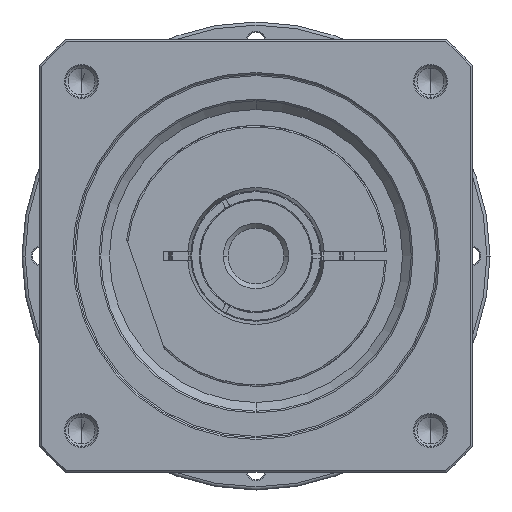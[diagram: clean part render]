
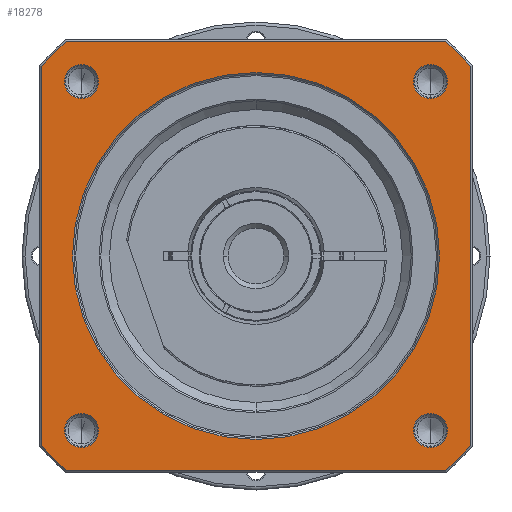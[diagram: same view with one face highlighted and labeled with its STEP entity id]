
A CAD part, left-side view. The second image highlights one B-rep face of the part: STEP entity #18278.
In plain terms, the highlighted planar face has unit normal (-1, 0, 0) as drawn and (0, 0, 1) by its records, which use the part's own axes.
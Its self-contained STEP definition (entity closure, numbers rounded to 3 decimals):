
#17009=DIRECTION('',(1.,0.,0.));
#17010=VECTOR('',#17009,119.059);
#17011=CARTESIAN_POINT('',(-59.529,-67.5,41.));
#17012=LINE('',#17011,#17010);
#17022=CARTESIAN_POINT('',(0.,0.,
41.));
#17023=DIRECTION('',(0.,0.,-1.));
#17024=DIRECTION('',(0.,-1.,0.));
#17025=AXIS2_PLACEMENT_3D('',#17022,#17023,#17024);
#17027=CARTESIAN_POINT('',(0.,0.,
41.));
#17028=DIRECTION('',(0.,0.,-1.));
#17029=DIRECTION('',(0.,1.,0.));
#17030=AXIS2_PLACEMENT_3D('',#17027,#17028,#17029);
#17032=CARTESIAN_POINT('',(0.,0.,41.));
#17033=DIRECTION('',(0.,0.,1.));
#17034=DIRECTION('',(-0.75,-0.661,0.));
#17035=AXIS2_PLACEMENT_3D('',#17032,#17033,#17034);
#17047=DIRECTION('',(0.,-1.,0.));
#17048=VECTOR('',#17047,119.059);
#17049=CARTESIAN_POINT('',(-67.5,59.529,41.));
#17050=LINE('',#17049,#17048);
#17060=CARTESIAN_POINT('',(0.,0.,41.));
#17061=DIRECTION('',(0.,0.,1.));
#17062=DIRECTION('',(-0.661,0.75,0.));
#17063=AXIS2_PLACEMENT_3D('',#17060,#17061,#17062);
#17088=DIRECTION('',(-1.,0.,0.));
#17089=VECTOR('',#17088,119.059);
#17090=CARTESIAN_POINT('',(59.529,67.5,41.));
#17091=LINE('',#17090,#17089);
#17096=CARTESIAN_POINT('',(0.,0.,41.));
#17097=DIRECTION('',(0.,0.,1.));
#17098=DIRECTION('',(0.75,0.661,0.));
#17099=AXIS2_PLACEMENT_3D('',#17096,#17097,#17098);
#17111=DIRECTION('',(0.,1.,0.));
#17112=VECTOR('',#17111,119.059);
#17113=CARTESIAN_POINT('',(67.5,-59.529,41.));
#17114=LINE('',#17113,#17112);
#17216=CARTESIAN_POINT('',(0.,0.,41.));
#17217=DIRECTION('',(0.,0.,1.));
#17218=DIRECTION('',(0.661,-0.75,0.));
#17219=AXIS2_PLACEMENT_3D('',#17216,#17217,#17218);
#17495=CARTESIAN_POINT('',(-54.801,54.801,41.));
#17496=DIRECTION('',(0.,0.,1.));
#17497=DIRECTION('',(-1.,0.,0.));
#17498=AXIS2_PLACEMENT_3D('',#17495,#17496,#17497);
#17513=CARTESIAN_POINT('',(-54.801,54.801,41.));
#17514=DIRECTION('',(0.,0.,1.));
#17515=DIRECTION('',(1.,0.,0.));
#17516=AXIS2_PLACEMENT_3D('',#17513,#17514,#17515);
#17549=CARTESIAN_POINT('',(54.801,54.801,41.));
#17550=DIRECTION('',(0.,0.,1.));
#17551=DIRECTION('',(-1.,0.,0.));
#17552=AXIS2_PLACEMENT_3D('',#17549,#17550,#17551);
#17567=CARTESIAN_POINT('',(54.801,54.801,41.));
#17568=DIRECTION('',(0.,0.,1.));
#17569=DIRECTION('',(1.,0.,0.));
#17570=AXIS2_PLACEMENT_3D('',#17567,#17568,#17569);
#17603=CARTESIAN_POINT('',(54.801,-54.801,41.));
#17604=DIRECTION('',(0.,0.,1.));
#17605=DIRECTION('',(-1.,0.,0.));
#17606=AXIS2_PLACEMENT_3D('',#17603,#17604,#17605);
#17621=CARTESIAN_POINT('',(54.801,-54.801,41.));
#17622=DIRECTION('',(0.,0.,1.));
#17623=DIRECTION('',(1.,0.,0.));
#17624=AXIS2_PLACEMENT_3D('',#17621,#17622,#17623);
#17657=CARTESIAN_POINT('',(-54.801,-54.801,41.));
#17658=DIRECTION('',(0.,0.,1.));
#17659=DIRECTION('',(-1.,0.,0.));
#17660=AXIS2_PLACEMENT_3D('',#17657,#17658,#17659);
#17675=CARTESIAN_POINT('',(-54.801,-54.801,41.));
#17676=DIRECTION('',(0.,0.,1.));
#17677=DIRECTION('',(1.,0.,0.));
#17678=AXIS2_PLACEMENT_3D('',#17675,#17676,#17677);
#17719=CARTESIAN_POINT('',(67.5,-59.529,41.));
#17720=CARTESIAN_POINT('',(67.5,59.529,41.));
#17721=VERTEX_POINT('',#17719);
#17722=VERTEX_POINT('',#17720);
#17727=CARTESIAN_POINT('',(59.529,-67.5,41.));
#17728=VERTEX_POINT('',#17727);
#17731=CARTESIAN_POINT('',(-59.529,-67.5,41.));
#17732=VERTEX_POINT('',#17731);
#17735=CARTESIAN_POINT('',(-67.5,-59.529,41.));
#17736=VERTEX_POINT('',#17735);
#17739=CARTESIAN_POINT('',(-67.5,59.529,41.));
#17740=VERTEX_POINT('',#17739);
#17743=CARTESIAN_POINT('',(-59.529,67.5,41.));
#17744=VERTEX_POINT('',#17743);
#17747=CARTESIAN_POINT('',(59.529,67.5,41.));
#17748=VERTEX_POINT('',#17747);
#17797=CARTESIAN_POINT('',(-60.151,54.801,41.));
#17798=CARTESIAN_POINT('',(-49.451,54.801,41.));
#17799=VERTEX_POINT('',#17797);
#17800=VERTEX_POINT('',#17798);
#17831=CARTESIAN_POINT('',(60.151,54.801,41.));
#17832=CARTESIAN_POINT('',(49.451,54.801,41.));
#17833=VERTEX_POINT('',#17831);
#17834=VERTEX_POINT('',#17832);
#17839=CARTESIAN_POINT('',(60.151,-54.801,41.));
#17840=CARTESIAN_POINT('',(49.451,-54.801,41.));
#17841=VERTEX_POINT('',#17839);
#17842=VERTEX_POINT('',#17840);
#17847=CARTESIAN_POINT('',(-49.451,-54.801,41.));
#17848=CARTESIAN_POINT('',(-60.151,-54.801,41.));
#17849=VERTEX_POINT('',#17847);
#17850=VERTEX_POINT('',#17848);
#17855=CARTESIAN_POINT('',(0.,-57.65,41.));
#17856=CARTESIAN_POINT('',(0.,57.65,
41.));
#17857=VERTEX_POINT('',#17855);
#17858=VERTEX_POINT('',#17856);
#18226=CARTESIAN_POINT('',(0.,0.,41.));
#18227=DIRECTION('',(0.,0.,1.));
#18228=DIRECTION('',(1.,0.,0.));
#18229=AXIS2_PLACEMENT_3D('',#18226,#18227,#18228);
#18230=PLANE('',#18229);
#18232=ORIENTED_EDGE('',*,*,#18231,.F.);
#18234=ORIENTED_EDGE('',*,*,#18233,.F.);
#18236=ORIENTED_EDGE('',*,*,#18235,.F.);
#18238=ORIENTED_EDGE('',*,*,#18237,.F.);
#18240=ORIENTED_EDGE('',*,*,#18239,.F.);
#18242=ORIENTED_EDGE('',*,*,#18241,.F.);
#18244=ORIENTED_EDGE('',*,*,#18243,.F.);
#18245=ORIENTED_EDGE('',*,*,#18216,.F.);
#18246=EDGE_LOOP('',(#18232,#18234,#18236,#18238,#18240,#18242,#18244,#18245));
#18247=FACE_OUTER_BOUND('',#18246,.F.);
#18249=ORIENTED_EDGE('',*,*,#18248,.F.);
#18251=ORIENTED_EDGE('',*,*,#18250,.F.);
#18252=EDGE_LOOP('',(#18249,#18251));
#18253=FACE_BOUND('',#18252,.F.);
#18255=ORIENTED_EDGE('',*,*,#18254,.T.);
#18257=ORIENTED_EDGE('',*,*,#18256,.T.);
#18258=EDGE_LOOP('',(#18255,#18257));
#18259=FACE_BOUND('',#18258,.F.);
#18261=ORIENTED_EDGE('',*,*,#18260,.T.);
#18263=ORIENTED_EDGE('',*,*,#18262,.T.);
#18264=EDGE_LOOP('',(#18261,#18263));
#18265=FACE_BOUND('',#18264,.F.);
#18267=ORIENTED_EDGE('',*,*,#18266,.T.);
#18269=ORIENTED_EDGE('',*,*,#18268,.T.);
#18270=EDGE_LOOP('',(#18267,#18269));
#18271=FACE_BOUND('',#18270,.F.);
#18273=ORIENTED_EDGE('',*,*,#18272,.T.);
#18275=ORIENTED_EDGE('',*,*,#18274,.T.);
#18276=EDGE_LOOP('',(#18273,#18275));
#18277=FACE_BOUND('',#18276,.F.);
#18278=ADVANCED_FACE('',(#18247,#18253,#18259,#18265,#18271,#18277),#18230,.T.);
#17026=CIRCLE('',#17025,57.65);
#17031=CIRCLE('',#17030,57.65);
#17036=CIRCLE('',#17035,90.);
#17064=CIRCLE('',#17063,90.);
#17100=CIRCLE('',#17099,90.);
#17220=CIRCLE('',#17219,90.);
#17499=CIRCLE('',#17498,5.35);
#17517=CIRCLE('',#17516,5.35);
#17553=CIRCLE('',#17552,5.35);
#17571=CIRCLE('',#17570,5.35);
#17607=CIRCLE('',#17606,5.35);
#17625=CIRCLE('',#17624,5.35);
#17661=CIRCLE('',#17660,5.35);
#17679=CIRCLE('',#17678,5.35);
#18216=EDGE_CURVE('',#17732,#17728,#17012,.T.);
#18231=EDGE_CURVE('',#17736,#17732,#17036,.T.);
#18233=EDGE_CURVE('',#17740,#17736,#17050,.T.);
#18235=EDGE_CURVE('',#17744,#17740,#17064,.T.);
#18237=EDGE_CURVE('',#17748,#17744,#17091,.T.);
#18239=EDGE_CURVE('',#17722,#17748,#17100,.T.);
#18241=EDGE_CURVE('',#17721,#17722,#17114,.T.);
#18243=EDGE_CURVE('',#17728,#17721,#17220,.T.);
#18248=EDGE_CURVE('',#17857,#17858,#17026,.T.);
#18250=EDGE_CURVE('',#17858,#17857,#17031,.T.);
#18254=EDGE_CURVE('',#17799,#17800,#17499,.T.);
#18256=EDGE_CURVE('',#17800,#17799,#17517,.T.);
#18260=EDGE_CURVE('',#17834,#17833,#17553,.T.);
#18262=EDGE_CURVE('',#17833,#17834,#17571,.T.);
#18266=EDGE_CURVE('',#17842,#17841,#17607,.T.);
#18268=EDGE_CURVE('',#17841,#17842,#17625,.T.);
#18272=EDGE_CURVE('',#17850,#17849,#17661,.T.);
#18274=EDGE_CURVE('',#17849,#17850,#17679,.T.);
